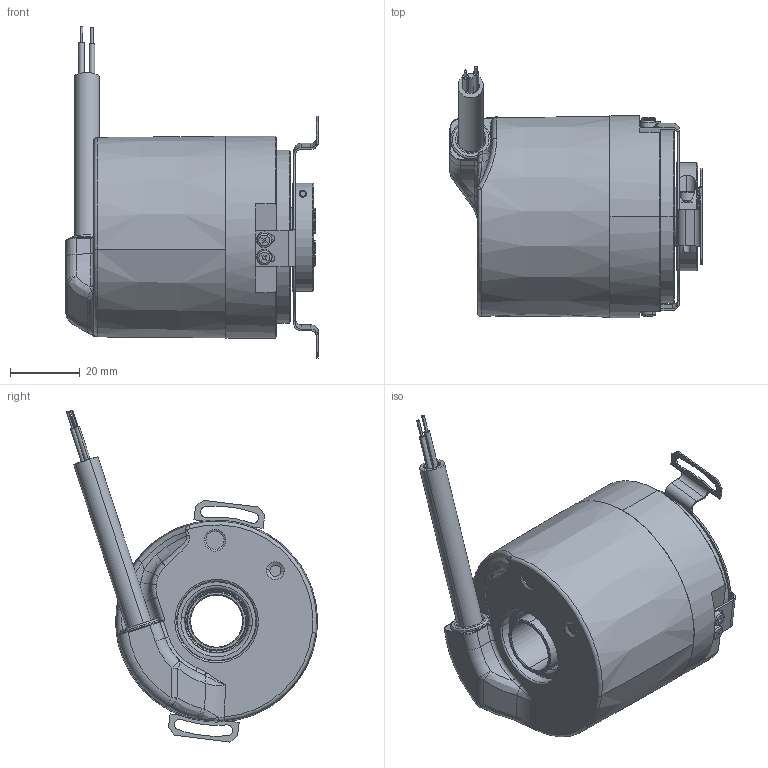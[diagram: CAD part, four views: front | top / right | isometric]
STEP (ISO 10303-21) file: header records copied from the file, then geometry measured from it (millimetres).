
FILE_DESCRIPTION (( 'STEP AP203' ), '1' );
FILE_NAME ('8.F5883.66XE.XXXX.STEP', '2013-06-24T13:50:19', ( 'LauferA' ), ( 'Microsoft' ), 'SwSTEP 2.0', 'SolidWorks 2012', '' );
FILE_SCHEMA (( 'CONFIG_CONTROL_DESIGN' ));
Length unit declared in the file: millimetre
Products named in the file (1): 8.F5883.66XE.XXXX
Bounding box: 72.47 x 72.13 x 95.39 mm (x, y, z)
Volume: 73546.8 mm3; surface area: 55686.4 mm2
Topology: 17 solids, 17 shells, 1820 faces, 4349 edges, 2613 vertices
Faces by surface type: cylinder 599, plane 480, bspline 361, cone 204, torus 158, sphere 18
Entity records: 63671 total; most frequent: CARTESIAN_POINT 24209, ORIENTED_EDGE 8602, DIRECTION 7862, EDGE_CURVE 4301, AXIS2_PLACEMENT_3D 3167, VERTEX_POINT 2613, EDGE_LOOP 1956, ADVANCED_FACE 1820
